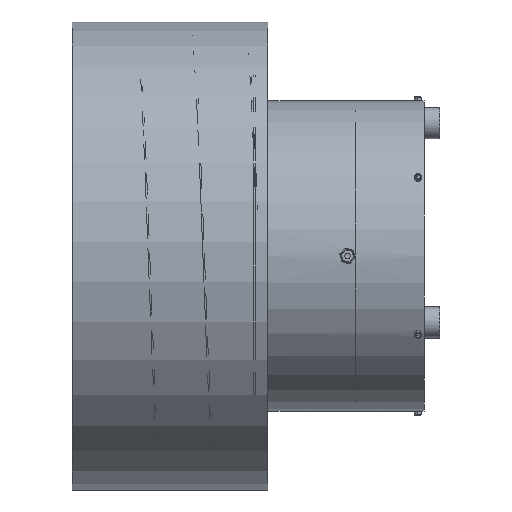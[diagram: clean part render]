
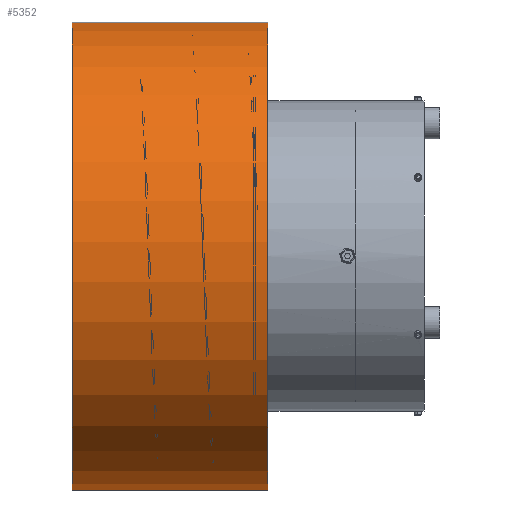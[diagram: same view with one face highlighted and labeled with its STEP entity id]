
A CAD part, left-side view. The second image highlights one B-rep face of the part: STEP entity #5352.
In plain terms, the highlighted cylindrical face has radius 300 mm (diameter 600 mm), a partial arc.
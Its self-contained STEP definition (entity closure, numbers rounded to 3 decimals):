
#58 = DIRECTION ( 'NONE',  ( 0., 0., -1. ) ) ;
#139 = EDGE_LOOP ( 'NONE', ( #7941, #7816, #9357, #3664 ) ) ;
#886 = CIRCLE ( 'NONE', #10328, 300. ) ;
#900 = LINE ( 'NONE', #2196, #9196 ) ;
#1412 = AXIS2_PLACEMENT_3D ( 'NONE', #2916, #3620, #3543 ) ;
#1458 = FACE_OUTER_BOUND ( 'NONE', #139, .T. ) ;
#1548 = CARTESIAN_POINT ( 'NONE',  ( 0., 250., 300. ) ) ;
#1630 = VERTEX_POINT ( 'NONE', #2895 ) ;
#2099 = VERTEX_POINT ( 'NONE', #7819 ) ;
#2196 = CARTESIAN_POINT ( 'NONE',  ( 0., 250., -300. ) ) ;
#2633 = DIRECTION ( 'NONE',  ( 0., -1., 0. ) ) ;
#2895 = CARTESIAN_POINT ( 'NONE',  ( 0., 250., 300. ) ) ;
#2916 = CARTESIAN_POINT ( 'NONE',  ( 0., 0., 0. ) ) ;
#3310 = LINE ( 'NONE', #1548, #7027 ) ;
#3543 = DIRECTION ( 'NONE',  ( 0., 0., -1. ) ) ;
#3620 = DIRECTION ( 'NONE',  ( 0., -1., 0. ) ) ;
#3664 = ORIENTED_EDGE ( 'NONE', *, *, #9156, .F. ) ;
#4158 = CARTESIAN_POINT ( 'NONE',  ( 0., 250., 0. ) ) ;
#4269 = CARTESIAN_POINT ( 'NONE',  ( 0., 250., 0. ) ) ;
#4302 = DIRECTION ( 'NONE',  ( 0., 0., 1. ) ) ;
#5352 = ADVANCED_FACE ( 'NONE', ( #1458 ), #9228, .T. ) ;
#5483 = DIRECTION ( 'NONE',  ( 0., -1., 0. ) ) ;
#5912 = CIRCLE ( 'NONE', #1412, 300. ) ;
#6021 = VERTEX_POINT ( 'NONE', #6592 ) ;
#6592 = CARTESIAN_POINT ( 'NONE',  ( 0., 0., 300. ) ) ;
#7027 = VECTOR ( 'NONE', #8780, 1000. ) ;
#7468 = DIRECTION ( 'NONE',  ( 0., -1., 0. ) ) ;
#7733 = AXIS2_PLACEMENT_3D ( 'NONE', #4269, #2633, #4302 ) ;
#7745 = EDGE_CURVE ( 'NONE', #6021, #2099, #5912, .T. ) ;
#7816 = ORIENTED_EDGE ( 'NONE', *, *, #9714, .T. ) ;
#7819 = CARTESIAN_POINT ( 'NONE',  ( 0., 0., -300. ) ) ;
#7838 = VERTEX_POINT ( 'NONE', #9292 ) ;
#7941 = ORIENTED_EDGE ( 'NONE', *, *, #10502, .T. ) ;
#8780 = DIRECTION ( 'NONE',  ( 0., -1., 0. ) ) ;
#9156 = EDGE_CURVE ( 'NONE', #1630, #6021, #3310, .T. ) ;
#9196 = VECTOR ( 'NONE', #5483, 1000. ) ;
#9228 = CYLINDRICAL_SURFACE ( 'NONE', #7733, 300. ) ;
#9292 = CARTESIAN_POINT ( 'NONE',  ( 0., 250., -300. ) ) ;
#9357 = ORIENTED_EDGE ( 'NONE', *, *, #7745, .F. ) ;
#9714 = EDGE_CURVE ( 'NONE', #7838, #2099, #900, .T. ) ;
#10328 = AXIS2_PLACEMENT_3D ( 'NONE', #4158, #7468, #58 ) ;
#10502 = EDGE_CURVE ( 'NONE', #1630, #7838, #886, .T. ) ;
